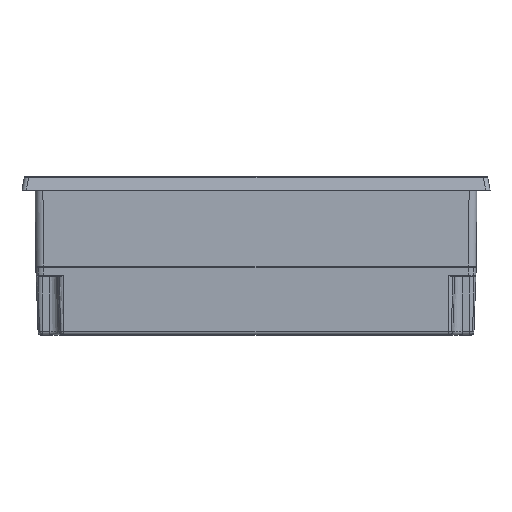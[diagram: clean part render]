
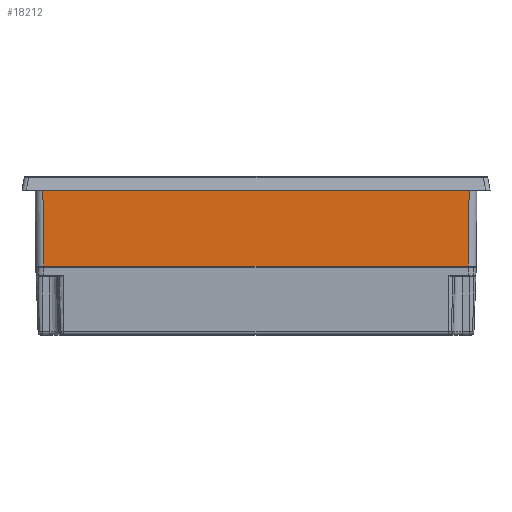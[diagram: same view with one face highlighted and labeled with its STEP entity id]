
A CAD part, top view. The second image highlights one B-rep face of the part: STEP entity #18212.
In plain terms, the highlighted planar face has unit normal (0, -0.009, 1).
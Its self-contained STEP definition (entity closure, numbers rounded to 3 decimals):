
#523 = ORIENTED_EDGE ( 'NONE', *, *, #19717, .T. ) ;
#2565 = VERTEX_POINT ( 'NONE', #26978 ) ;
#3466 = DIRECTION ( 'NONE',  ( 0.009, 1., 0.009 ) ) ;
#4839 = DIRECTION ( 'NONE',  ( 1., 0., 0. ) ) ;
#5023 = CARTESIAN_POINT ( 'NONE',  ( 99., -34., 68.681 ) ) ;
#6387 = LINE ( 'NONE', #28421, #7040 ) ;
#7040 = VECTOR ( 'NONE', #14903, 1000. ) ;
#7534 = CARTESIAN_POINT ( 'NONE',  ( -95.485, 0.803, 68.985 ) ) ;
#8378 = VECTOR ( 'NONE', #4839, 1000. ) ;
#8737 = CARTESIAN_POINT ( 'NONE',  ( 95.5, 2.531, 69. ) ) ;
#9417 = CARTESIAN_POINT ( 'NONE',  ( -95.182, -34., 68.681 ) ) ;
#10035 = CARTESIAN_POINT ( 'NONE',  ( 99., 2.5, 69. ) ) ;
#11836 = CARTESIAN_POINT ( 'NONE',  ( 95.504, 3., 69.004 ) ) ;
#14758 = DIRECTION ( 'NONE',  ( 0., -1., -0.009 ) ) ;
#14903 = DIRECTION ( 'NONE',  ( -1., 0., 0. ) ) ;
#15707 = VERTEX_POINT ( 'NONE', #11836 ) ;
#16776 = EDGE_CURVE ( 'NONE', #2565, #15707, #28597, .T. ) ;
#17631 = ORIENTED_EDGE ( 'NONE', *, *, #16776, .T. ) ;
#17991 = FACE_OUTER_BOUND ( 'NONE', #25909, .T. ) ;
#18212 = ADVANCED_FACE ( 'NONE', ( #17991 ), #20335, .T. ) ;
#18569 = DIRECTION ( 'NONE',  ( 0.009, -1., -0.009 ) ) ;
#19717 = EDGE_CURVE ( 'NONE', #26178, #2565, #29410, .T. ) ;
#20335 = PLANE ( 'NONE',  #24889 ) ;
#21269 = LINE ( 'NONE', #7534, #22841 ) ;
#22841 = VECTOR ( 'NONE', #18569, 1000. ) ;
#23207 = DIRECTION ( 'NONE',  ( 0., -0.009, 1. ) ) ;
#24418 = VECTOR ( 'NONE', #3466, 1000. ) ;
#24889 = AXIS2_PLACEMENT_3D ( 'NONE', #10035, #23207, #14758 ) ;
#25785 = ORIENTED_EDGE ( 'NONE', *, *, #27460, .T. ) ;
#25909 = EDGE_LOOP ( 'NONE', ( #523, #17631, #25785, #26403 ) ) ;
#25965 = CARTESIAN_POINT ( 'NONE',  ( -95.504, 3., 69.004 ) ) ;
#26178 = VERTEX_POINT ( 'NONE', #9417 ) ;
#26403 = ORIENTED_EDGE ( 'NONE', *, *, #31802, .T. ) ;
#26978 = CARTESIAN_POINT ( 'NONE',  ( 95.182, -34., 68.681 ) ) ;
#27460 = EDGE_CURVE ( 'NONE', #15707, #31577, #6387, .T. ) ;
#28421 = CARTESIAN_POINT ( 'NONE',  ( -104.85, 3., 69.004 ) ) ;
#28597 = LINE ( 'NONE', #8737, #24418 ) ;
#29410 = LINE ( 'NONE', #5023, #8378 ) ;
#31577 = VERTEX_POINT ( 'NONE', #25965 ) ;
#31802 = EDGE_CURVE ( 'NONE', #31577, #26178, #21269, .T. ) ;
